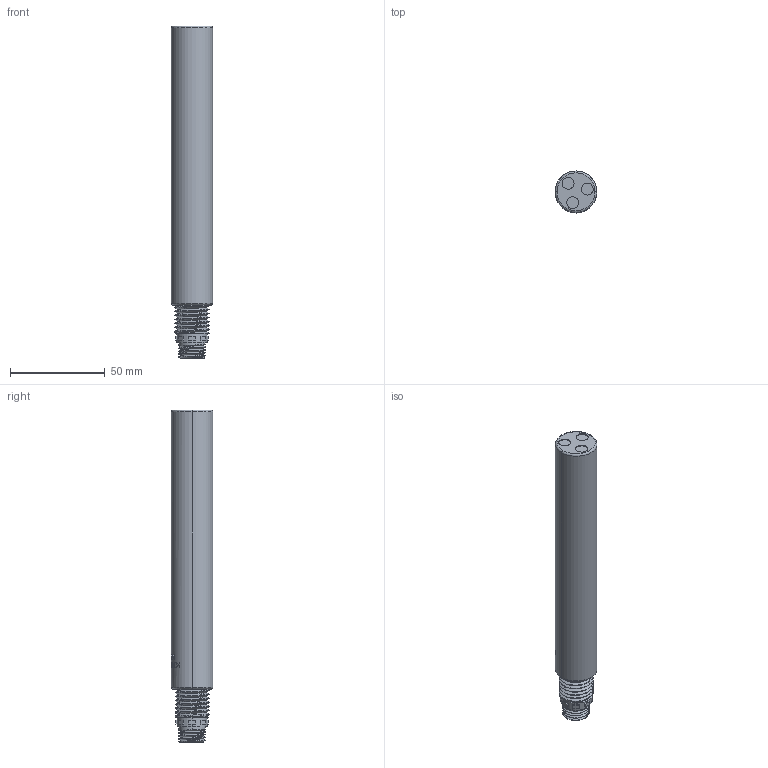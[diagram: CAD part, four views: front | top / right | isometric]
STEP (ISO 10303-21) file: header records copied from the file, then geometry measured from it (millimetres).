
FILE_DESCRIPTION((''),'2;1');
FILE_NAME('KWS-300_ASM','2026-01-23T17:28:53',('28740194'),(''),'CREO PARAMETRIC BY PTC INC, 2024063','CREO PARAMETRIC BY PTC INC, 2024063','');
FILE_SCHEMA(('CONFIG_CONTROL_DESIGN'));
Length unit declared in the file: millimetre
Products named in the file (5): KWS-300-1; 30001; 11120; 180_ASM; KWS-300_ASM
Assembly tree (4 placements, depth 3):
  KWS-300_ASM
    KWS-300-1
    180_ASM
      30001
      11120
Bounding box: 22 x 22.15 x 175.5 mm (x, y, z)
Volume: 4810.8 mm3; surface area: 14349 mm2
Topology: 2 solids, 5 shells, 509 faces, 1412 edges, 942 vertices
Faces by surface type: bspline 388, cylinder 61, plane 56, torus 4
Entity records: 24096 total; most frequent: CARTESIAN_POINT 13794, ORIENTED_EDGE 2800, EDGE_CURVE 1412, B_SPLINE_CURVE_WITH_KNOTS 950, VERTEX_POINT 942, DIRECTION 927, EDGE_LOOP 541, FACE_OUTER_BOUND 509
